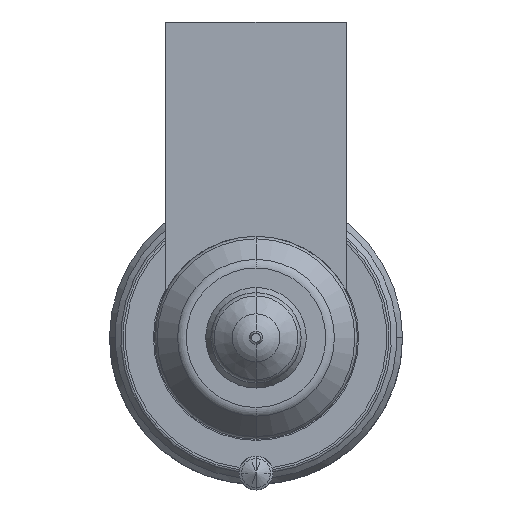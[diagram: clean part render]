
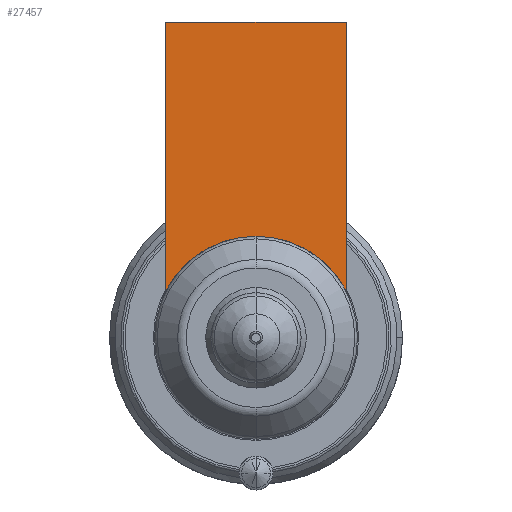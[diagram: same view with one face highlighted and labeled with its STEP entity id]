
A CAD part, front view. The second image highlights one B-rep face of the part: STEP entity #27457.
In plain terms, the highlighted planar face has unit normal (0, -1, 0).
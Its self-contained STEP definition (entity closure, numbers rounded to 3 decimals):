
#26566=DIRECTION('',(1.,0.,0.));
#26567=VECTOR('',#26566,16.);
#26568=CARTESIAN_POINT('',(-8.,-54.,28.));
#26569=LINE('',#26568,#26567);
#26574=CARTESIAN_POINT('',(0.,-54.,0.));
#26575=DIRECTION('',(0.,-1.,0.));
#26576=DIRECTION('',(0.889,0.,0.458));
#26577=AXIS2_PLACEMENT_3D('',#26574,#26575,#26576);
#26582=CARTESIAN_POINT('',(0.,-54.,0.));
#26583=DIRECTION('',(0.,-1.,0.));
#26584=DIRECTION('',(0.,0.,1.));
#26585=AXIS2_PLACEMENT_3D('',#26582,#26583,#26584);
#26611=DIRECTION('',(0.,0.,-1.));
#26612=VECTOR('',#26611,23.877);
#26613=CARTESIAN_POINT('',(-8.,-54.,28.));
#26614=LINE('',#26613,#26612);
#27301=DIRECTION('',(0.,0.,-1.));
#27302=VECTOR('',#27301,23.877);
#27303=CARTESIAN_POINT('',(8.,-54.,28.));
#27304=LINE('',#27303,#27302);
#27354=CARTESIAN_POINT('',(-8.,-54.,28.));
#27355=VERTEX_POINT('',#27354);
#27360=CARTESIAN_POINT('',(8.,-54.,28.));
#27361=VERTEX_POINT('',#27360);
#27364=CARTESIAN_POINT('',(-8.,-54.,4.123));
#27365=VERTEX_POINT('',#27364);
#27368=CARTESIAN_POINT('',(8.,-54.,4.123));
#27369=VERTEX_POINT('',#27368);
#27438=CARTESIAN_POINT('',(0.,-54.,9.));
#27439=VERTEX_POINT('',#27438);
#27440=CARTESIAN_POINT('',(0.,-54.,9.));
#27441=DIRECTION('',(0.,1.,0.));
#27442=DIRECTION('',(0.,0.,-1.));
#27443=AXIS2_PLACEMENT_3D('',#27440,#27441,#27442);
#27444=PLANE('',#27443);
#27446=ORIENTED_EDGE('',*,*,#27445,.F.);
#27448=ORIENTED_EDGE('',*,*,#27447,.T.);
#27450=ORIENTED_EDGE('',*,*,#27449,.T.);
#27452=ORIENTED_EDGE('',*,*,#27451,.T.);
#27454=ORIENTED_EDGE('',*,*,#27453,.T.);
#27455=EDGE_LOOP('',(#27446,#27448,#27450,#27452,#27454));
#27456=FACE_OUTER_BOUND('',#27455,.F.);
#27457=ADVANCED_FACE('',(#27456),#27444,.F.);
#26578=CIRCLE('',#26577,9.);
#26586=CIRCLE('',#26585,9.);
#27445=EDGE_CURVE('',#27355,#27365,#26614,.T.);
#27447=EDGE_CURVE('',#27355,#27361,#26569,.T.);
#27449=EDGE_CURVE('',#27361,#27369,#27304,.T.);
#27451=EDGE_CURVE('',#27369,#27439,#26578,.T.);
#27453=EDGE_CURVE('',#27439,#27365,#26586,.T.);
